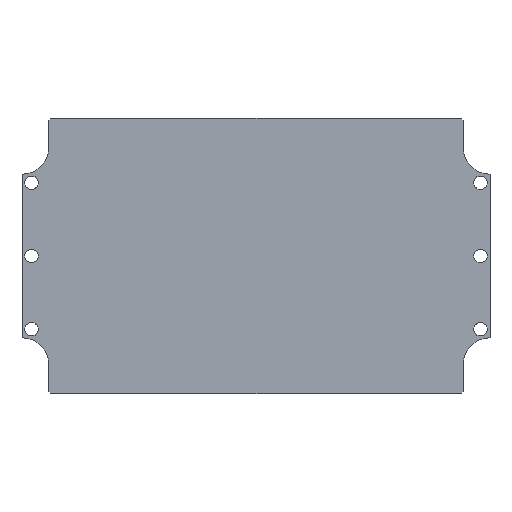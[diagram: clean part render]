
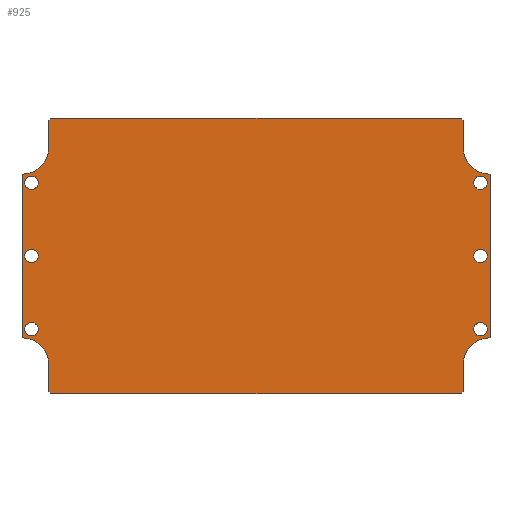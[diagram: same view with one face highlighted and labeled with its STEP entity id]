
A CAD part, top view. The second image highlights one B-rep face of the part: STEP entity #925.
In plain terms, the highlighted planar face has unit normal (0, 0, 1).
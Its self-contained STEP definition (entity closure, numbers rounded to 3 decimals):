
#49=CARTESIAN_POINT('',(196.825,92.216,0.5));
#50=VERTEX_POINT('',#49);
#51=CARTESIAN_POINT('',(197.825,91.216,0.5));
#52=VERTEX_POINT('',#51);
#53=CARTESIAN_POINT('',(196.825,92.216,0.5));
#54=DIRECTION('',(0.707,-0.707,0.0));
#55=VECTOR('',#54,1.414);
#56=LINE('',#53,#55);
#57=EDGE_CURVE('',#50,#52,#56,.T.);
#98=CARTESIAN_POINT('',(-16.175,92.216,0.5));
#99=VERTEX_POINT('',#98);
#106=CARTESIAN_POINT('',(-16.175,92.216,0.5));
#107=DIRECTION('',(1.0,0.0,0.0));
#108=VECTOR('',#107,213.);
#109=LINE('',#106,#108);
#110=EDGE_CURVE('',#99,#50,#109,.T.);
#310=CARTESIAN_POINT('',(-16.175,-50.784,0.5));
#311=VERTEX_POINT('',#310);
#312=CARTESIAN_POINT('',(-17.175,-49.784,0.5));
#313=VERTEX_POINT('',#312);
#314=CARTESIAN_POINT('',(-16.175,-50.784,0.5));
#315=DIRECTION('',(-0.707,0.707,0.0));
#316=VECTOR('',#315,1.414);
#317=LINE('',#314,#316);
#318=EDGE_CURVE('',#311,#313,#317,.T.);
#343=CARTESIAN_POINT('',(196.825,-50.784,0.5));
#344=VERTEX_POINT('',#343);
#351=CARTESIAN_POINT('',(196.825,-50.784,0.5));
#352=DIRECTION('',(-1.0,0.0,0.0));
#353=VECTOR('',#352,213.);
#354=LINE('',#351,#353);
#355=EDGE_CURVE('',#344,#311,#354,.T.);
#365=CARTESIAN_POINT('',(197.825,-49.784,0.5));
#366=VERTEX_POINT('',#365);
#367=CARTESIAN_POINT('',(197.825,-49.784,0.5));
#368=DIRECTION('',(-0.707,-0.707,0.0));
#369=VECTOR('',#368,1.414);
#370=LINE('',#367,#369);
#371=EDGE_CURVE('',#366,#344,#370,.T.);
#391=CARTESIAN_POINT('',(197.825,-35.784,0.5));
#392=VERTEX_POINT('',#391);
#399=CARTESIAN_POINT('',(197.825,-35.784,0.5));
#400=DIRECTION('',(0.0,-1.0,0.0));
#401=VECTOR('',#400,14.0);
#402=LINE('',#399,#401);
#403=EDGE_CURVE('',#392,#366,#402,.T.);
#413=CARTESIAN_POINT('',(-17.175,91.216,0.5));
#414=VERTEX_POINT('',#413);
#415=CARTESIAN_POINT('',(-17.175,91.216,0.5));
#416=DIRECTION('',(0.707,0.707,0.0));
#417=VECTOR('',#416,1.414);
#418=LINE('',#415,#417);
#419=EDGE_CURVE('',#414,#99,#418,.T.);
#461=CARTESIAN_POINT('',(210.325,58.716,0.5));
#462=VERTEX_POINT('',#461);
#463=CARTESIAN_POINT('',(206.825,58.716,0.5));
#464=DIRECTION('',(0.0,0.0,-1.0));
#465=DIRECTION('',(1.0,0.0,0.0));
#466=AXIS2_PLACEMENT_3D('',#463,#464,#465);
#467=CIRCLE('',#466,3.5);
#468=EDGE_CURVE('',#462,#462,#467,.T.);
#502=CARTESIAN_POINT('',(-22.675,-17.284,0.5));
#503=VERTEX_POINT('',#502);
#504=CARTESIAN_POINT('',(-26.175,-17.284,0.5));
#505=DIRECTION('',(0.0,0.0,-1.0));
#506=DIRECTION('',(1.0,0.0,0.0));
#507=AXIS2_PLACEMENT_3D('',#504,#505,#506);
#508=CIRCLE('',#507,3.5);
#509=EDGE_CURVE('',#503,#503,#508,.T.);
#543=CARTESIAN_POINT('',(-22.675,20.716,0.5));
#544=VERTEX_POINT('',#543);
#545=CARTESIAN_POINT('',(-26.175,20.716,0.5));
#546=DIRECTION('',(0.0,0.0,-1.0));
#547=DIRECTION('',(1.0,0.0,0.0));
#548=AXIS2_PLACEMENT_3D('',#545,#546,#547);
#549=CIRCLE('',#548,3.5);
#550=EDGE_CURVE('',#544,#544,#549,.T.);
#584=CARTESIAN_POINT('',(210.325,20.716,0.5));
#585=VERTEX_POINT('',#584);
#586=CARTESIAN_POINT('',(206.825,20.716,0.5));
#587=DIRECTION('',(0.0,0.0,-1.0));
#588=DIRECTION('',(1.0,0.0,0.0));
#589=AXIS2_PLACEMENT_3D('',#586,#587,#588);
#590=CIRCLE('',#589,3.5);
#591=EDGE_CURVE('',#585,#585,#590,.T.);
#625=CARTESIAN_POINT('',(210.325,-17.284,0.5));
#626=VERTEX_POINT('',#625);
#627=CARTESIAN_POINT('',(206.825,-17.284,0.5));
#628=DIRECTION('',(0.0,0.0,-1.0));
#629=DIRECTION('',(1.0,0.0,0.0));
#630=AXIS2_PLACEMENT_3D('',#627,#628,#629);
#631=CIRCLE('',#630,3.5);
#632=EDGE_CURVE('',#626,#626,#631,.T.);
#666=CARTESIAN_POINT('',(-22.675,58.716,0.5));
#667=VERTEX_POINT('',#666);
#668=CARTESIAN_POINT('',(-26.175,58.716,0.5));
#669=DIRECTION('',(0.0,0.0,-1.0));
#670=DIRECTION('',(1.0,0.0,0.0));
#671=AXIS2_PLACEMENT_3D('',#668,#669,#670);
#672=CIRCLE('',#671,3.5);
#673=EDGE_CURVE('',#667,#667,#672,.T.);
#683=CARTESIAN_POINT('',(197.825,77.216,0.5));
#684=VERTEX_POINT('',#683);
#685=CARTESIAN_POINT('',(211.825,63.216,0.5));
#686=VERTEX_POINT('',#685);
#687=CARTESIAN_POINT('',(211.825,77.216,0.5));
#688=DIRECTION('',(0.0,0.0,1.0));
#689=DIRECTION('',(1.0,0.0,0.0));
#690=AXIS2_PLACEMENT_3D('',#687,#688,#689);
#691=CIRCLE('',#690,14.);
#692=EDGE_CURVE('',#684,#686,#691,.T.);
#715=CARTESIAN_POINT('',(211.825,-21.784,0.5));
#716=VERTEX_POINT('',#715);
#717=CARTESIAN_POINT('',(211.825,63.216,0.5));
#718=DIRECTION('',(0.0,-1.0,0.0));
#719=VECTOR('',#718,85.);
#720=LINE('',#717,#719);
#721=EDGE_CURVE('',#686,#716,#720,.T.);
#739=CARTESIAN_POINT('',(211.825,-35.784,0.5));
#740=DIRECTION('',(0.0,0.0,1.0));
#741=DIRECTION('',(0.0,-1.0,0.0));
#742=AXIS2_PLACEMENT_3D('',#739,#740,#741);
#743=CIRCLE('',#742,14.);
#744=EDGE_CURVE('',#716,#392,#743,.T.);
#758=CARTESIAN_POINT('',(-17.175,-35.784,0.5));
#759=VERTEX_POINT('',#758);
#760=CARTESIAN_POINT('',(-17.175,-49.784,0.5));
#761=DIRECTION('',(0.0,1.0,0.0));
#762=VECTOR('',#761,14.);
#763=LINE('',#760,#762);
#764=EDGE_CURVE('',#313,#759,#763,.T.);
#781=CARTESIAN_POINT('',(-31.175,-21.784,0.5));
#782=VERTEX_POINT('',#781);
#783=CARTESIAN_POINT('',(-31.175,-35.784,0.5));
#784=DIRECTION('',(0.0,0.0,1.0));
#785=DIRECTION('',(-1.0,0.0,0.0));
#786=AXIS2_PLACEMENT_3D('',#783,#784,#785);
#787=CIRCLE('',#786,14.);
#788=EDGE_CURVE('',#759,#782,#787,.T.);
#806=CARTESIAN_POINT('',(-31.175,63.216,0.5));
#807=VERTEX_POINT('',#806);
#808=CARTESIAN_POINT('',(-31.175,-21.784,0.5));
#809=DIRECTION('',(0.0,1.0,0.0));
#810=VECTOR('',#809,85.0);
#811=LINE('',#808,#810);
#812=EDGE_CURVE('',#782,#807,#811,.T.);
#830=CARTESIAN_POINT('',(-17.175,77.216,0.5));
#831=VERTEX_POINT('',#830);
#832=CARTESIAN_POINT('',(-31.175,77.216,0.5));
#833=DIRECTION('',(0.0,0.0,1.0));
#834=DIRECTION('',(0.0,1.0,0.0));
#835=AXIS2_PLACEMENT_3D('',#832,#833,#834);
#836=CIRCLE('',#835,14.);
#837=EDGE_CURVE('',#807,#831,#836,.T.);
#858=CARTESIAN_POINT('',(-17.175,77.216,0.5));
#859=DIRECTION('',(0.0,1.0,0.0));
#860=VECTOR('',#859,14.);
#861=LINE('',#858,#860);
#862=EDGE_CURVE('',#831,#414,#861,.T.);
#873=CARTESIAN_POINT('',(197.825,91.216,0.5));
#874=DIRECTION('',(0.0,-1.0,0.0));
#875=VECTOR('',#874,14.);
#876=LINE('',#873,#875);
#877=EDGE_CURVE('',#52,#684,#876,.T.);
#884=CARTESIAN_POINT('',(90.325,20.716,0.5));
#885=DIRECTION('',(0.0,0.0,1.0));
#886=DIRECTION('',(1.0,0.0,0.0));
#887=AXIS2_PLACEMENT_3D('',#884,#885,#886);
#888=PLANE('',#887);
#889=ORIENTED_EDGE('',*,*,#57,.F.);
#890=ORIENTED_EDGE('',*,*,#110,.F.);
#891=ORIENTED_EDGE('',*,*,#419,.F.);
#892=ORIENTED_EDGE('',*,*,#862,.F.);
#893=ORIENTED_EDGE('',*,*,#837,.F.);
#894=ORIENTED_EDGE('',*,*,#812,.F.);
#895=ORIENTED_EDGE('',*,*,#788,.F.);
#896=ORIENTED_EDGE('',*,*,#764,.F.);
#897=ORIENTED_EDGE('',*,*,#318,.F.);
#898=ORIENTED_EDGE('',*,*,#355,.F.);
#899=ORIENTED_EDGE('',*,*,#371,.F.);
#900=ORIENTED_EDGE('',*,*,#403,.F.);
#901=ORIENTED_EDGE('',*,*,#744,.F.);
#902=ORIENTED_EDGE('',*,*,#721,.F.);
#903=ORIENTED_EDGE('',*,*,#692,.F.);
#904=ORIENTED_EDGE('',*,*,#877,.F.);
#905=EDGE_LOOP('',(#889,#890,#891,#892,#893,#894,#895,#896,#897,#898,#899,#900,#901,#902,#903,#904));
#906=FACE_OUTER_BOUND('',#905,.T.);
#907=ORIENTED_EDGE('',*,*,#468,.T.);
#908=EDGE_LOOP('',(#907));
#909=FACE_BOUND('',#908,.T.);
#910=ORIENTED_EDGE('',*,*,#509,.T.);
#911=EDGE_LOOP('',(#910));
#912=FACE_BOUND('',#911,.T.);
#913=ORIENTED_EDGE('',*,*,#550,.T.);
#914=EDGE_LOOP('',(#913));
#915=FACE_BOUND('',#914,.T.);
#916=ORIENTED_EDGE('',*,*,#591,.T.);
#917=EDGE_LOOP('',(#916));
#918=FACE_BOUND('',#917,.T.);
#919=ORIENTED_EDGE('',*,*,#632,.T.);
#920=EDGE_LOOP('',(#919));
#921=FACE_BOUND('',#920,.T.);
#922=ORIENTED_EDGE('',*,*,#673,.T.);
#923=EDGE_LOOP('',(#922));
#924=FACE_BOUND('',#923,.T.);
#925=ADVANCED_FACE('',(#906,#909,#912,#915,#918,#921,#924),#888,.T.);
